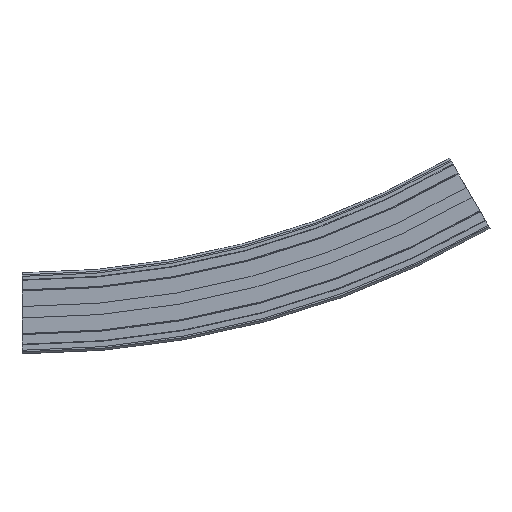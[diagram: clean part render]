
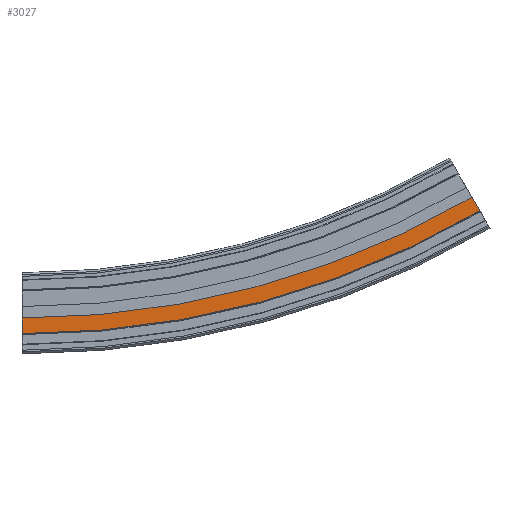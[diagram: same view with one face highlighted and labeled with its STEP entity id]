
A CAD part, front view. The second image highlights one B-rep face of the part: STEP entity #3027.
In plain terms, the highlighted planar face has unit normal (0, -1, 0).
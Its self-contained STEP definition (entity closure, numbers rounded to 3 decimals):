
#2969=CARTESIAN_POINT('',(440.25,-32.,59.465));
#2970=VERTEX_POINT('',#2969);
#2977=CARTESIAN_POINT('',(0.0,-32.,-58.5));
#2978=VERTEX_POINT('',#2977);
#2979=CARTESIAN_POINT('',(0.,-32.,822.0));
#2980=DIRECTION('',(0.0,-1.,0.0));
#2981=DIRECTION('',(-0.5,0.0,0.866));
#2982=AXIS2_PLACEMENT_3D('',#2979,#2980,#2981);
#2983=CIRCLE('',#2982,880.5);
#2984=EDGE_CURVE('',#2978,#2970,#2983,.T.);
#2996=CARTESIAN_POINT('',(0.0,-32.,-51.));
#2997=DIRECTION('',(0.0,-1.0,0.0));
#2998=DIRECTION('',(0.0,0.0,-1.0));
#2999=AXIS2_PLACEMENT_3D('',#2996,#2997,#2998);
#3000=PLANE('',#2999);
#3001=CARTESIAN_POINT('',(432.75,-32.,72.455));
#3002=VERTEX_POINT('',#3001);
#3003=CARTESIAN_POINT('',(440.25,-32.,59.465));
#3004=DIRECTION('',(-0.5,0.,0.866));
#3005=VECTOR('',#3004,15.);
#3006=LINE('',#3003,#3005);
#3007=EDGE_CURVE('',#2970,#3002,#3006,.T.);
#3008=ORIENTED_EDGE('',*,*,#3007,.T.);
#3009=CARTESIAN_POINT('',(0.0,-32.,-43.5));
#3010=VERTEX_POINT('',#3009);
#3011=CARTESIAN_POINT('',(0.,-32.,822.0));
#3012=DIRECTION('',(0.0,-1.0,0.0));
#3013=DIRECTION('',(-0.5,0.0,0.866));
#3014=AXIS2_PLACEMENT_3D('',#3011,#3012,#3013);
#3015=CIRCLE('',#3014,865.5);
#3016=EDGE_CURVE('',#3010,#3002,#3015,.T.);
#3017=ORIENTED_EDGE('',*,*,#3016,.F.);
#3018=CARTESIAN_POINT('',(0.0,-32.,-43.5));
#3019=DIRECTION('',(0.0,0.0,-1.0));
#3020=VECTOR('',#3019,15.);
#3021=LINE('',#3018,#3020);
#3022=EDGE_CURVE('',#3010,#2978,#3021,.T.);
#3023=ORIENTED_EDGE('',*,*,#3022,.T.);
#3024=ORIENTED_EDGE('',*,*,#2984,.T.);
#3025=EDGE_LOOP('',(#3008,#3017,#3023,#3024));
#3026=FACE_OUTER_BOUND('',#3025,.T.);
#3027=ADVANCED_FACE('',(#3026),#3000,.T.);
